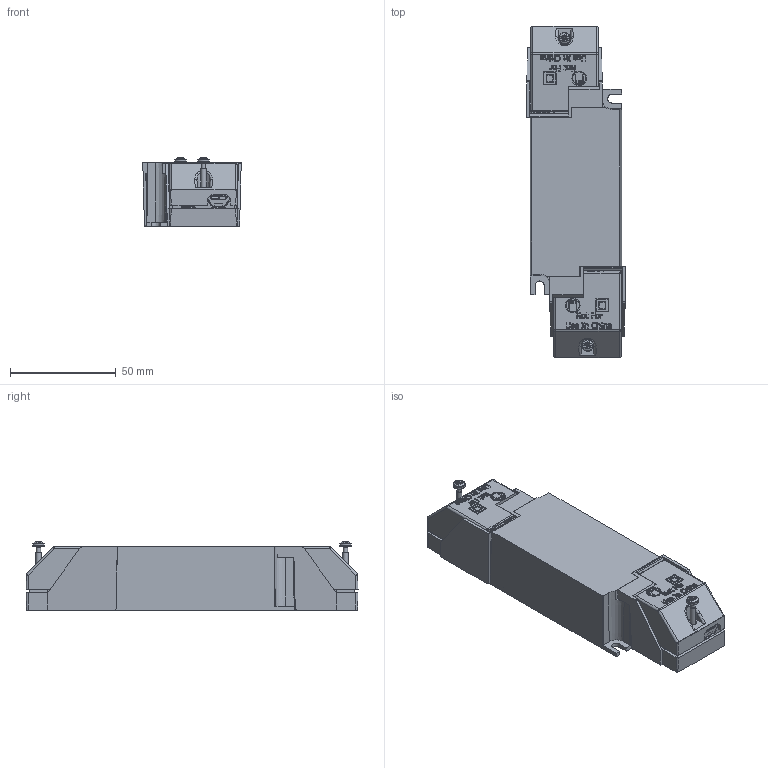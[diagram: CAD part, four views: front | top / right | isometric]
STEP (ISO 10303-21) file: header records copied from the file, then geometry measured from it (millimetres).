
FILE_DESCRIPTION(/* description */ ('Cover Xitanium 20W mini'),/* implementation_level */ '2;1');
FILE_NAME(/* name */ 'C:\Wind\Mini Simpleset\Housing\Mini simple set indepent_A.stp',/* time_stamp */ '2016-05-24T14:16:26+08:00',/* author */ ('310043586'),/* organization */ (''),/* preprocessor_version */ 'ST-DEVELOPER v15.2',/* originating_system */ 'Autodesk Inventor 2014',/* authorisation */ '');
FILE_SCHEMA (('AUTOMOTIVE_DESIGN { 1 0 10303 214 3 1 1 }'));
Products named in the file (43): 442240947611 chassis_P1; 442240922891 SR chassis_A; 442240926961 SR inset_A; 442240922901 SR cover_A; Ejot PT screw- M3x16.; Block strand relief_A; 442240922761 cover_A; 20W_Outline; cap_sllf201214_b_1; cap_179059144010_lda060_0750_r_1; dio_sub_sma_tase_b_1; fil_125075140_e080040_04p_d06_m_1; fus_085040080_lda060_0500_r_1; cap_123046119050_lda060_0500_r_1; dio_scp55352624_b_1; ind_sllf160810_b_1; pkg_sot323_b_1; cap_sllf321619_b_1; res_sllf321607_b_1; res_sllf160805_b_1; barcode_057x057_silk_cl3_1; cap_sllf321614_b_1; cep_d105220_lda060_0500_r_1; pcb_mod_442236725741_m_1; cap_sllf321610_b_1; dio_do219ab_b_1; dio_sod323_b_1; dio_scp52252917_b_2; CONNECTOR_ODD_WAGO250_2P_V2_25-04-14_13.4; pcb_mod_antenna_02p_m_1; CONNECTOR_ODD_WAGO250_2P_V1_01-11-11_13.2; push_marker_ict_060_cl3; dio_abs_tase_b_1; trf_175120190_e075075_04p_d06_m_1; res_o070050105035_ldb060_0500_r_1; dio_scp52252917_b_1; trf_170170210_e038113_04p_d09_m_1; pkg_to220fp_bend4766_m_1; cap_safe_o100070130030_vki060_1000_m_1; trf_215260220_e177200_09p_d07_m_1_TEMP_JV_L300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
Bounding box: 46.52 x 156.88 x 32.44 mm (x, y, z)
Volume: 85106.2 mm3; surface area: 94143.6 mm2
Topology: 78 solids, 78 shells, 3269 faces, 8681 edges, 5651 vertices
Faces by surface type: plane 2314, cylinder 534, bspline 369, cone 20, torus 18, sphere 14
Full cylindrical faces by diameter (mm): 1.7 x4, 2 x2, 2.5 x6, 2.7 x2, 4 x2, 5.6 x2, 6 x5, 6.9 x2, 10.9 x1
Entity records: 69851 total; most frequent: CARTESIAN_POINT 15932, ORIENTED_EDGE 11370, DIRECTION 10124, EDGE_CURVE 5683, LINE 4430, VECTOR 4430, VERTEX_POINT 3714, AXIS2_PLACEMENT_3D 2847
